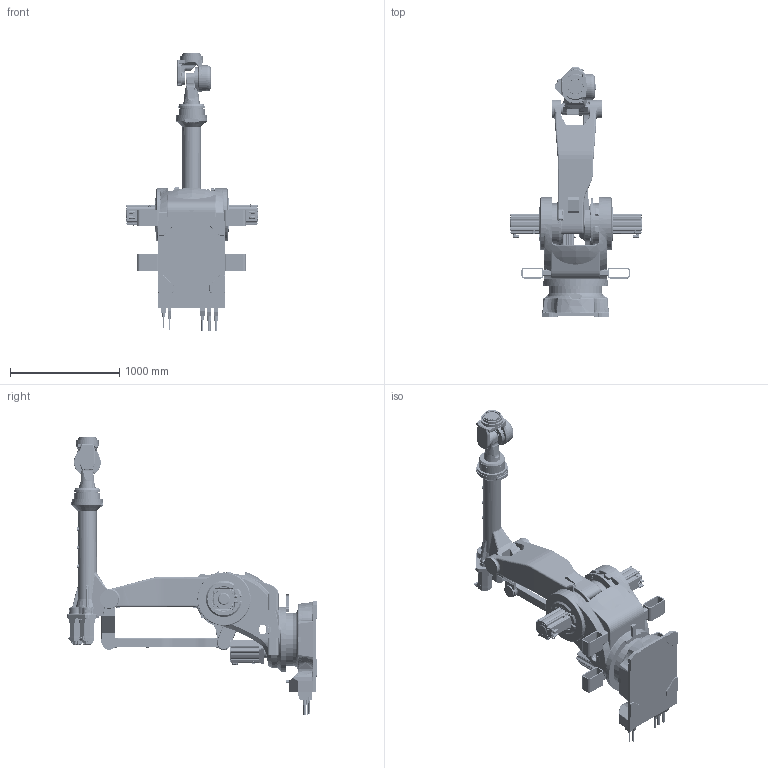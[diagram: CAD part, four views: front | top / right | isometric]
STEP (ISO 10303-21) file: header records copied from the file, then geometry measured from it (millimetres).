
FILE_DESCRIPTION (( 'STEP AP203' ), '1' );
FILE_NAME ('360总装 （外发） 22.10.10.STEP', '2023-03-09T02:40:18', ( '' ), ( '' ), 'SwSTEP 2.0', 'SolidWorks 2018', '' );
FILE_SCHEMA (( 'CONFIG_CONTROL_DESIGN' ));
Length unit declared in the file: millimetre
Products named in the file (35): 360总装 （外发）  22.10.10; 360熬厒ん裔61.13-1; 360蛌旋晚裔   21.12.4-2; 360忒勂熬厒ん裔-1; 360kg限位器1.2   21.11.12-1; R2.1-550N2熬厒儂-蚾饜极-1-2021.12.31-1-1; 萇儂假蚾啣-1; 360笝傷唳   21.11.12-1; R22-500CA-1; 360 456粣萇儂-1-1; RCC_D-1; 360苤旋  22.1.27; 6粣熬厒儂; 360三轴连杆-1; 熬厒褲极5-1; 360 湮旋 22.5.6; 360れ笭-4; 360蛌旋   21.11.29-1; 360れ笭-3-1; Z8G18-600HJ-N1M2-SXSB-D32E60-C37001-1; RCC_B-1; 360 456粣萇儂-3; RCC_A-1; RCC_E-1; 360 456粣萇儂-2-1; Wrist-1; R2.1-550N2熬厒儂-蚾饜极-1-2021.12.31-2; 360kg限位器1.1   21.11.12-1; 360蛌旋晚裔   21.12.4-1-1; 360菁釱   21.11.11-1; 360れ笭-2-1; 360忒勂1.13-1; 360れ笭-1-1; RCC_C-1; 360耜旋-1
Assembly tree (36 placements, depth 2):
  360总装 （外发）  22.10.10
    RCC_A-1
    RCC_B-1
    RCC_C-1
    RCC_D-1
    RCC_E-1
    Wrist-1
    360 456粣萇儂-3
    360 456粣萇儂-1-1
    360 456粣萇儂-2-1
    萇儂假蚾啣-1
    360忒勂1.13-1
    360熬厒ん裔61.13-1
    熬厒褲极5-1
    Z8G18-600HJ-N1M2-SXSB-D32E60-C37001-1  x3
    360菁釱   21.11.11-1
    360蛌旋   21.11.29-1
    360kg限位器1.2   21.11.12-1
    360笝傷唳   21.11.12-1
    360れ笭-4
    360れ笭-1-1
    360れ笭-2-1
    360れ笭-3-1
    R22-500CA-1
    360蛌旋晚裔   21.12.4-2
    360蛌旋晚裔   21.12.4-1-1
    360耜旋-1
    360三轴连杆-1
    360忒勂熬厒ん裔-1
    R2.1-550N2熬厒儂-蚾饜极-1-2021.12.31-2
    R2.1-550N2熬厒儂-蚾饜极-1-2021.12.31-1-1
    360苤旋  22.1.27
    360 湮旋 22.5.6
    360kg限位器1.1   21.11.12-1
    6粣熬厒儂
Bounding box: 1208 x 2284.14 x 2553.37 mm (x, y, z)
Volume: 364788730.4 mm3; surface area: 34461514 mm2
Topology: 54 solids, 200 shells, 13209 faces, 33058 edges, 20409 vertices
Faces by surface type: cylinder 4048, plane 4027, bspline 2257, cone 1669, torus 1022, sphere 186
Entity records: 344935 total; most frequent: CARTESIAN_POINT 152096, ORIENTED_EDGE 41280, DIRECTION 37960, EDGE_CURVE 20640, AXIS2_PLACEMENT_3D 15067, VERTEX_POINT 12675, EDGE_LOOP 9071, FACE_OUTER_BOUND 8547
